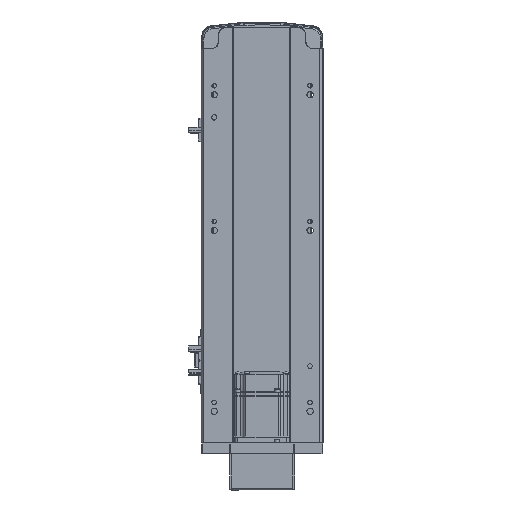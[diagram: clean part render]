
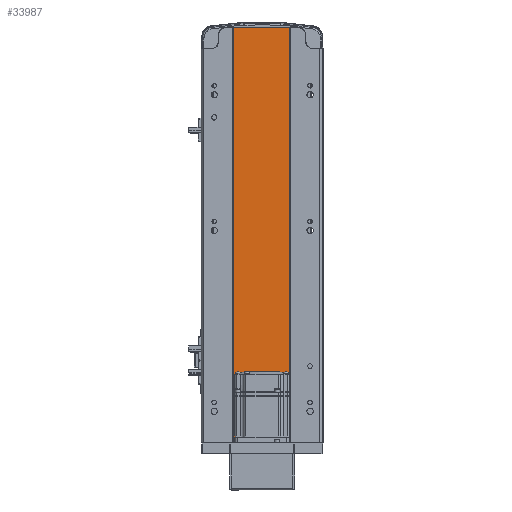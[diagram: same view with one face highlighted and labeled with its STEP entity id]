
A CAD part, front view. The second image highlights one B-rep face of the part: STEP entity #33987.
In plain terms, the highlighted planar face has unit normal (0, -1, 0).
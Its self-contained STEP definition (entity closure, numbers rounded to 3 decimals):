
#192 = CARTESIAN_POINT ( 'NONE',  ( -32., 1., 459. ) ) ;
#597 = PLANE ( 'NONE',  #51804 ) ;
#2535 = VECTOR ( 'NONE', #32554, 1000. ) ;
#4345 = DIRECTION ( 'NONE',  ( 0., 1., 0. ) ) ;
#4463 = EDGE_CURVE ( 'NONE', #14881, #53893, #46882, .T. ) ;
#4696 = EDGE_CURVE ( 'NONE', #53893, #55879, #8599, .T. ) ;
#6221 = ORIENTED_EDGE ( 'NONE', *, *, #4696, .F. ) ;
#7058 = LINE ( 'NONE', #38750, #9786 ) ;
#8599 = LINE ( 'NONE', #41529, #2535 ) ;
#9786 = VECTOR ( 'NONE', #43730, 1000. ) ;
#10367 = CARTESIAN_POINT ( 'NONE',  ( -32., 1., 0. ) ) ;
#11720 = EDGE_LOOP ( 'NONE', ( #21384, #6221, #29028, #42112 ) ) ;
#13742 = VERTEX_POINT ( 'NONE', #10367 ) ;
#14881 = VERTEX_POINT ( 'NONE', #26192 ) ;
#16092 = DIRECTION ( 'NONE',  ( 0., 0., -1. ) ) ;
#17594 = VECTOR ( 'NONE', #16092, 1000. ) ;
#19877 = CARTESIAN_POINT ( 'NONE',  ( -32., 1., 459. ) ) ;
#21384 = ORIENTED_EDGE ( 'NONE', *, *, #43399, .T. ) ;
#26192 = CARTESIAN_POINT ( 'NONE',  ( -32., 1., 459. ) ) ;
#28944 = CARTESIAN_POINT ( 'NONE',  ( 30., 1., 459. ) ) ;
#29028 = ORIENTED_EDGE ( 'NONE', *, *, #4463, .F. ) ;
#30545 = EDGE_CURVE ( 'NONE', #14881, #13742, #38025, .T. ) ;
#32034 = FACE_OUTER_BOUND ( 'NONE', #11720, .T. ) ;
#32554 = DIRECTION ( 'NONE',  ( 0., 0., -1. ) ) ;
#32966 = CARTESIAN_POINT ( 'NONE',  ( 30., 1., 0. ) ) ;
#33254 = VECTOR ( 'NONE', #42332, 1000. ) ;
#33987 = ADVANCED_FACE ( 'NONE', ( #32034 ), #597, .F. ) ;
#38025 = LINE ( 'NONE', #19877, #17594 ) ;
#38750 = CARTESIAN_POINT ( 'NONE',  ( -32., 1., 0. ) ) ;
#41529 = CARTESIAN_POINT ( 'NONE',  ( 30., 1., 459. ) ) ;
#42112 = ORIENTED_EDGE ( 'NONE', *, *, #30545, .T. ) ;
#42332 = DIRECTION ( 'NONE',  ( 1., 0., 0. ) ) ;
#43399 = EDGE_CURVE ( 'NONE', #13742, #55879, #7058, .T. ) ;
#43730 = DIRECTION ( 'NONE',  ( 1., 0., 0. ) ) ;
#46882 = LINE ( 'NONE', #54952, #33254 ) ;
#51804 = AXIS2_PLACEMENT_3D ( 'NONE', #192, #4345, #52434 ) ;
#52434 = DIRECTION ( 'NONE',  ( -1., 0., 0. ) ) ;
#53893 = VERTEX_POINT ( 'NONE', #28944 ) ;
#54952 = CARTESIAN_POINT ( 'NONE',  ( -32., 1., 459. ) ) ;
#55879 = VERTEX_POINT ( 'NONE', #32966 ) ;
